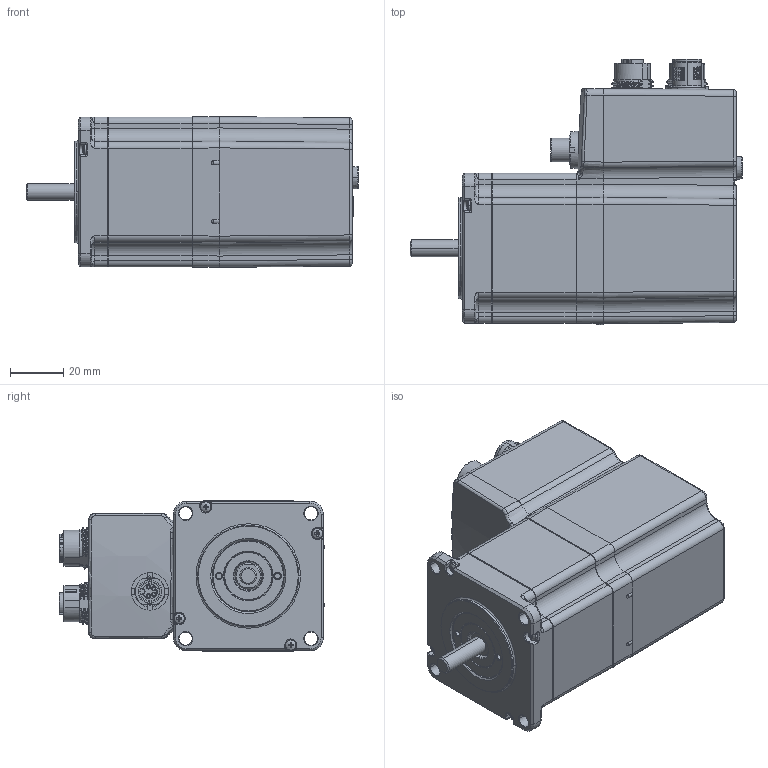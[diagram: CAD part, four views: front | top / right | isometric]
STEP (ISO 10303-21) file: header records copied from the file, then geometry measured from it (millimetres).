
FILE_DESCRIPTION((''),'2;1');
FILE_NAME('STEPPERASSY_ASM','2022-07-06T15:45:50',('Administrator'),(''),'CREO PARAMETRIC BY PTC INC, 2022014','CREO PARAMETRIC BY PTC INC, 2022014','');
FILE_SCHEMA(('AUTOMOTIVE_DESIGN { 1 0 10303 214 1 1 1 1 }'));
Products named in the file (9): FRONT_CAP_1; STATOR; RADIAL_CON; SHAFT_1; LOCK_NUT_1; SEALING_1; STO; FAST_S; STEPPERASSY_ASM
Assembly tree (11 placements, depth 2):
  STEPPERASSY_ASM
    FRONT_CAP_1
    STATOR
    RADIAL_CON
    SHAFT_1
    LOCK_NUT_1
    SEALING_1
    STO
    FAST_S  x4
Bounding box: 124.9 x 99.82 x 56.67 mm (x, y, z)
Volume: 384313 mm3; surface area: 59774.9 mm2
Topology: 11 solids, 17 shells, 2331 faces, 5987 edges, 3743 vertices
Faces by surface type: plane 860, cylinder 656, bspline 374, cone 220, torus 185, sphere 34, extrusion 2
Entity records: 132935 total; most frequent: CARTESIAN_POINT 50783, ORIENTED_EDGE 11310, DIRECTION 10248, PRESENTATION_STYLE_ASSIGNMENT 6299, EDGE_CURVE 5657, STYLED_ITEM 5405, CURVE_STYLE 5202, AXIS2_PLACEMENT_3D 3839
